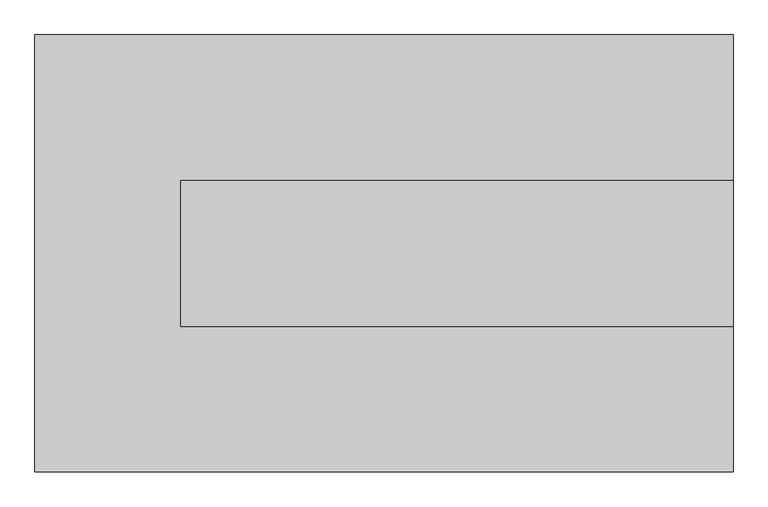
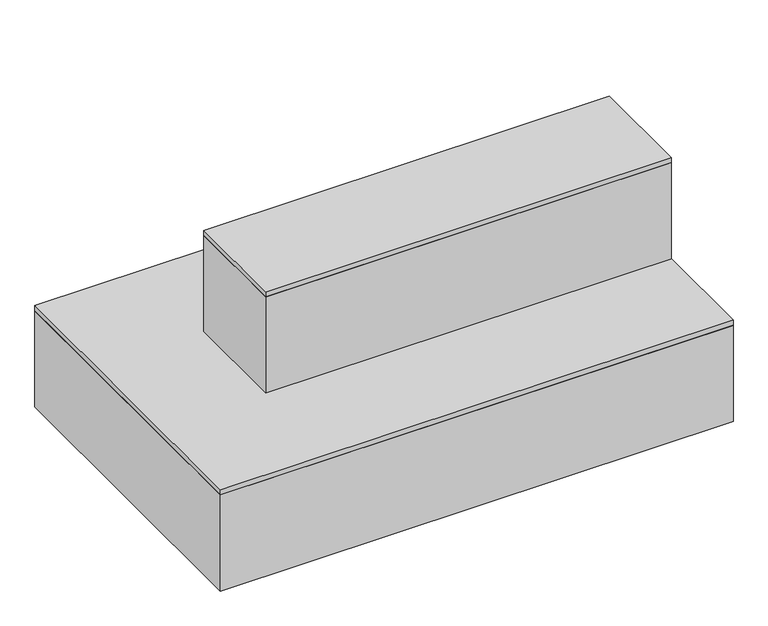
"""IFC4 building model written with IfcOpenShell, lengths in millimetres: furniture geometry, C18 Grada : C18 GRADA."""

from ifc_helpers import new_model, si_unit, frame, origin, origin_with_axes, place, context, project, spatial, polyline, outline, extrude, source, transform, mapped, element, save


def furniture_a3cfc38e(model_context):
    return source(origin(), model_context, "Body", "SweptSolid", [
        extrude(outline(polyline([(285.0, 800.0), (285.0, 400.0), (-1230.0, 400.0), (-1230.0, 800.0), (285.0, 800.0)]), holes=[polyline([(265.0, 780.0), (-1210.0, 780.0), (-1210.0, 420.0), (265.0, 420.0), (265.0, 780.0)])]), frame((0.0, 0.0, 400.0), z_axis=(0.0, 0.0, 1.0), x_axis=(1.0, 0.0, 0.0)), (0.0, 0.0, 1.0), 380.0),
        extrude(outline(polyline([(285.0, 800.0), (285.0, 400.0), (-1230.0, 400.0), (-1230.0, 800.0), (285.0, 800.0)])), frame((0.0, 0.0, 780.0), z_axis=(0.0, 0.0, 1.0), x_axis=(1.0, 0.0, 0.0)), (0.0, 0.0, 1.0), 20.0),
        extrude(outline(polyline([(285.0, 1200.0), (285.0, 0.0), (-1630.0, 0.0), (-1630.0, 1200.0), (285.0, 1200.0)]), holes=[polyline([(-1610.0, 20.0), (265.0, 20.0), (265.0, 1180.0), (-1610.0, 1180.0), (-1610.0, 20.0)])]), origin_with_axes(), (0.0, 0.0, 1.0), 380.0),
        extrude(outline(polyline([(285.0, 1200.0), (285.0, 0.0), (-1630.0, 0.0), (-1630.0, 1200.0), (285.0, 1200.0)])), frame((0.0, 0.0, 380.0), z_axis=(0.0, 0.0, 1.0), x_axis=(1.0, 0.0, 0.0)), (0.0, 0.0, 1.0), 20.0),
    ])


if __name__ == "__main__":
    model = new_model("IFC4")
    model_context = context("Model", 3, world=origin())
    ifc_project = project(units=[si_unit("LENGTHUNIT", "METRE", prefix="MILLI")], contexts=[model_context])
    site = spatial("IfcSite", under=ifc_project)
    building = spatial("IfcBuilding", under=site)
    placement = place(None, origin())
    furniture_shape = furniture_a3cfc38e(model_context)
    element("IfcFurniture", 1, ObjectType="C18 Grada : C18 GRADA", at=placement, inside=building, context=model_context, shape_type="MappedRepresentation", body=[
        mapped(furniture_shape, transform((0.0, 0.0, 0.0), x_axis=(1.0, 0.0, 0.0), y_axis=(0.0, 1.0, 0.0), z_axis=(0.0, 0.0, 1.0))),
    ])
    save(model, "model.ifc")
